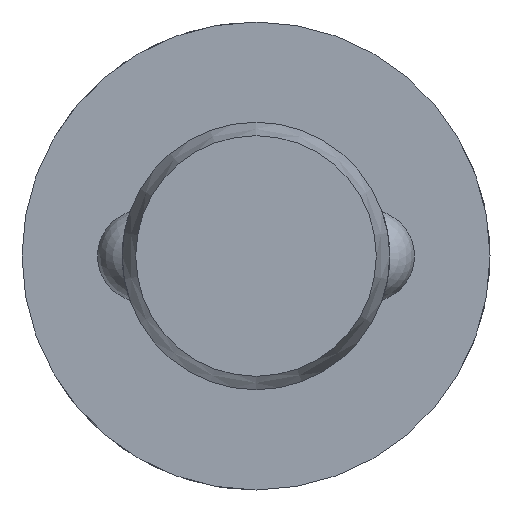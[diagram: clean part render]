
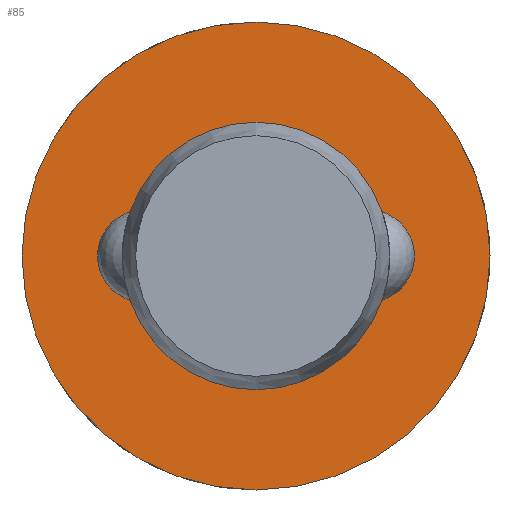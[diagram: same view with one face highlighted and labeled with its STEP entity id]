
A CAD part, left-side view. The second image highlights one B-rep face of the part: STEP entity #85.
In plain terms, the highlighted planar face has unit normal (-1, 0, 0).
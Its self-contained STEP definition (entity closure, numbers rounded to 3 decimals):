
#85 = ADVANCED_FACE( '', ( #130, #131 ), #132, .F. );
#130 = FACE_OUTER_BOUND( '', #200, .T. );
#131 = FACE_BOUND( '', #201, .T. );
#132 = PLANE( '', #202 );
#200 = EDGE_LOOP( '', ( #315 ) );
#201 = EDGE_LOOP( '', ( #316 ) );
#202 = AXIS2_PLACEMENT_3D( '', #317, #318, #319 );
#315 = ORIENTED_EDGE( '', *, *, #458, .F. );
#316 = ORIENTED_EDGE( '', *, *, #455, .T. );
#317 = CARTESIAN_POINT( '', ( 78.2, 4., 0. ) );
#318 = DIRECTION( '', ( 1., 0., 0. ) );
#319 = DIRECTION( '', ( 0., 0., -1. ) );
#455 = EDGE_CURVE( '', #528, #528, #529, .T. );
#458 = EDGE_CURVE( '', #534, #534, #535, .T. );
#528 = VERTEX_POINT( '', #732 );
#529 = CIRCLE( '', #733, 4. );
#534 = VERTEX_POINT( '', #820 );
#535 = CIRCLE( '', #821, 7. );
#732 = CARTESIAN_POINT( '', ( 78.2, 0., -4. ) );
#733 = AXIS2_PLACEMENT_3D( '', #898, #899, #900 );
#820 = CARTESIAN_POINT( '', ( 78.2, 0., -7. ) );
#821 = AXIS2_PLACEMENT_3D( '', #901, #902, #903 );
#898 = CARTESIAN_POINT( '', ( 78.2, 0., 0. ) );
#899 = DIRECTION( '', ( 1., 0., 0. ) );
#900 = DIRECTION( '', ( 0., 0., -1. ) );
#901 = CARTESIAN_POINT( '', ( 78.2, 0., 0. ) );
#902 = DIRECTION( '', ( 1., 0., 0. ) );
#903 = DIRECTION( '', ( 0., 0., -1. ) );
